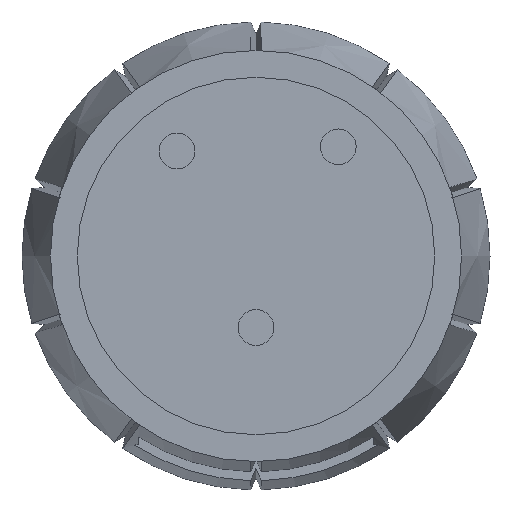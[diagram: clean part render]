
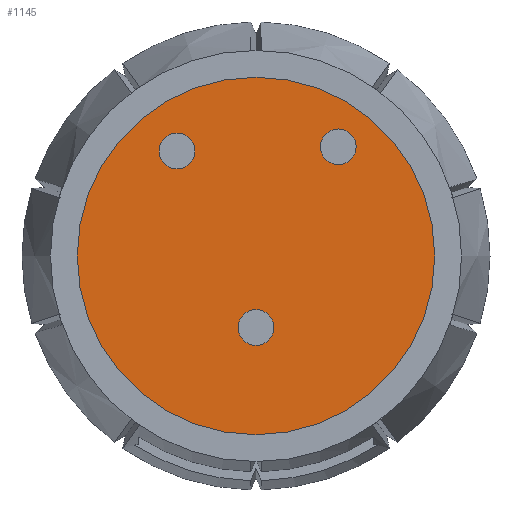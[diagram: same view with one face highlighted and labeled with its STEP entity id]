
A CAD part, left-side view. The second image highlights one B-rep face of the part: STEP entity #1145.
In plain terms, the highlighted planar face has unit normal (-1, 0, 0).
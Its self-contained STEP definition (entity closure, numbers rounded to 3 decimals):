
#125=FACE_BOUND('',#297,.T.);
#126=FACE_BOUND('',#298,.T.);
#127=FACE_BOUND('',#299,.T.);
#152=PLANE('',#1262);
#220=FACE_OUTER_BOUND('',#296,.T.);
#296=EDGE_LOOP('',(#965));
#297=EDGE_LOOP('',(#966));
#298=EDGE_LOOP('',(#967));
#299=EDGE_LOOP('',(#968));
#411=CIRCLE('',#1200,5.);
#413=CIRCLE('',#1204,5.);
#415=CIRCLE('',#1208,5.);
#448=CIRCLE('',#1263,50.);
#469=VERTEX_POINT('',#1556);
#471=VERTEX_POINT('',#1563);
#473=VERTEX_POINT('',#1570);
#554=VERTEX_POINT('',#2098);
#587=EDGE_CURVE('',#469,#469,#411,.T.);
#590=EDGE_CURVE('',#471,#471,#413,.T.);
#593=EDGE_CURVE('',#473,#473,#415,.T.);
#711=EDGE_CURVE('',#554,#554,#448,.T.);
#965=ORIENTED_EDGE('',*,*,#711,.F.);
#966=ORIENTED_EDGE('',*,*,#587,.T.);
#967=ORIENTED_EDGE('',*,*,#590,.T.);
#968=ORIENTED_EDGE('',*,*,#593,.T.);
#1145=ADVANCED_FACE('',(#220,#125,#126,#127),#152,.F.);
#1200=AXIS2_PLACEMENT_3D('',#1557,#1330,#1331);
#1204=AXIS2_PLACEMENT_3D('',#1564,#1339,#1340);
#1208=AXIS2_PLACEMENT_3D('',#1571,#1348,#1349);
#1262=AXIS2_PLACEMENT_3D('',#2097,#1487,#1488);
#1263=AXIS2_PLACEMENT_3D('',#2099,#1489,#1490);
#1330=DIRECTION('center_axis',(1.,0.,0.));
#1331=DIRECTION('ref_axis',(0.,1.,0.));
#1339=DIRECTION('center_axis',(1.,0.,0.));
#1340=DIRECTION('ref_axis',(0.,1.,0.));
#1348=DIRECTION('center_axis',(1.,0.,0.));
#1349=DIRECTION('ref_axis',(0.,1.,0.));
#1487=DIRECTION('center_axis',(1.,0.,0.));
#1488=DIRECTION('ref_axis',(0.,1.,0.));
#1489=DIRECTION('center_axis',(1.,0.,0.));
#1490=DIRECTION('ref_axis',(0.,1.,0.));
#1556=CARTESIAN_POINT('',(17.5,-5.,-20.));
#1557=CARTESIAN_POINT('Origin',(17.5,0.,-20.));
#1563=CARTESIAN_POINT('',(17.5,17.091,29.378));
#1564=CARTESIAN_POINT('Origin',(17.5,22.091,29.378));
#1570=CARTESIAN_POINT('',(17.5,-28.016,30.534));
#1571=CARTESIAN_POINT('Origin',(17.5,-23.016,30.534));
#2097=CARTESIAN_POINT('Origin',(17.5,0.,0.));
#2098=CARTESIAN_POINT('',(17.5,-50.,0.));
#2099=CARTESIAN_POINT('Origin',(17.5,0.,0.));
